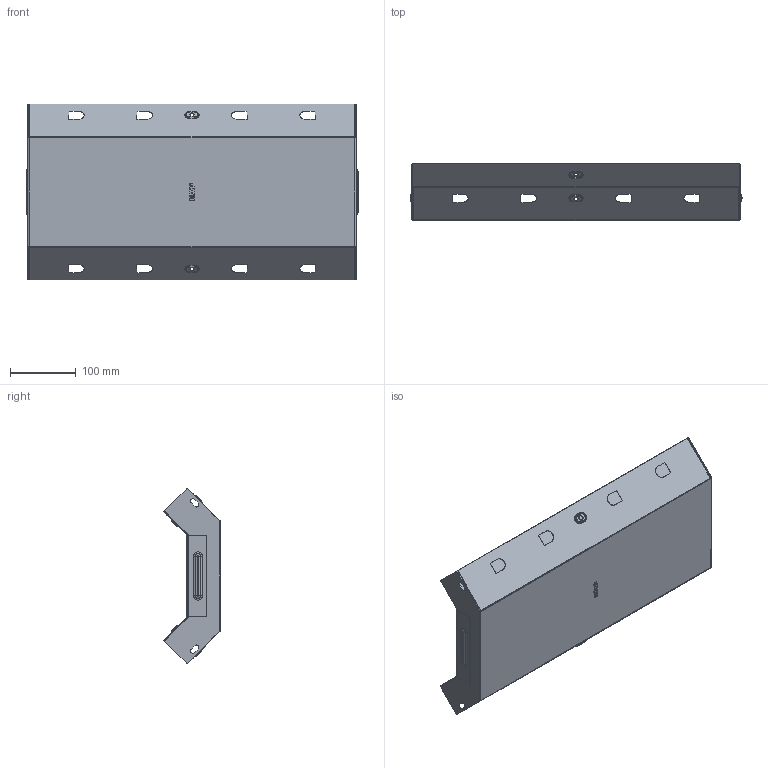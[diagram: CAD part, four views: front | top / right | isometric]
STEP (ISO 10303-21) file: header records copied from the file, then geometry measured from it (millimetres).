
FILE_DESCRIPTION (( 'STEP AP214' ), '1' );
FILE_NAME ('vi9050500_捘.STEP', '2019-06-10T09:27:58', ( '砐錪賧瘔蠈錪 Windows' ), ( '' ), 'SwSTEP 2.0', 'SolidWorks 2018', '' );
FILE_SCHEMA (( 'AUTOMOTIVE_DESIGN' ));
Length unit declared in the file: millimetre
Products named in the file (1): vi9050500_捘
Bounding box: 505.6 x 86.16 x 267.58 mm (x, y, z)
Volume: 236605.6 mm3; surface area: 595220.7 mm2
Topology: 2 solids, 2 shells, 448 faces, 1152 edges, 736 vertices
Faces by surface type: plane 246, cylinder 120, torus 64, bspline 18
Entity records: 14524 total; most frequent: CARTESIAN_POINT 3356, DIRECTION 2314, ORIENTED_EDGE 2304, EDGE_CURVE 1152, LINE 780, VECTOR 780, AXIS2_PLACEMENT_3D 767, VERTEX_POINT 736
